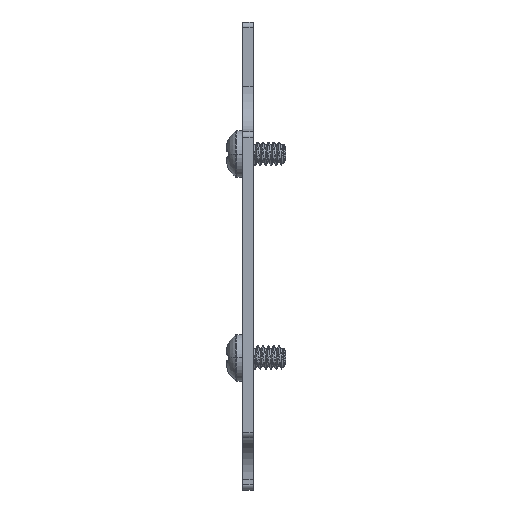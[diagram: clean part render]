
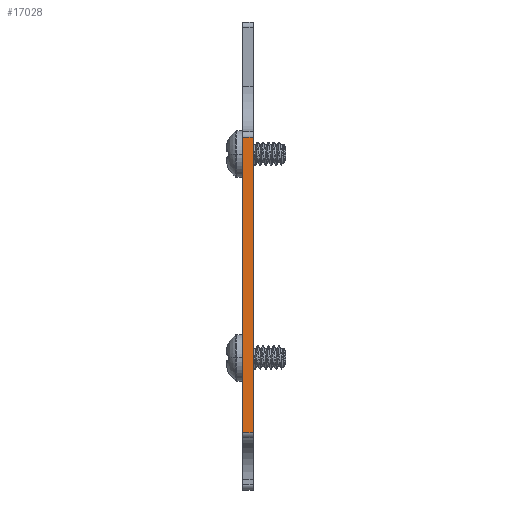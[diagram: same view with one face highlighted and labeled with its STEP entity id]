
A CAD part, left-side view. The second image highlights one B-rep face of the part: STEP entity #17028.
In plain terms, the highlighted planar face has unit normal (-1, 0, 0).
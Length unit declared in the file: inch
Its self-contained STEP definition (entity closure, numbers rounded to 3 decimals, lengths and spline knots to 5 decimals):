
#27 = VECTOR ( 'NONE', #2864, 39.37008 ) ;
#75 = PLANE ( 'NONE',  #16514 ) ;
#762 = VECTOR ( 'NONE', #7626, 39.37008 ) ;
#1204 = DIRECTION ( 'NONE',  ( 0., 0., 1. ) ) ;
#1265 = EDGE_CURVE ( 'NONE', #6853, #5339, #14337, .T. ) ;
#2251 = CARTESIAN_POINT ( 'NONE',  ( -2.24016, 0.06, -1.02609 ) ) ;
#2628 = LINE ( 'NONE', #14619, #16016 ) ;
#2864 = DIRECTION ( 'NONE',  ( 0., -1., 0. ) ) ;
#2954 = CARTESIAN_POINT ( 'NONE',  ( -2.24016, 0.06, 0.69144 ) ) ;
#3930 = CARTESIAN_POINT ( 'NONE',  ( -2.24016, 0.06, -1.02609 ) ) ;
#5339 = VERTEX_POINT ( 'NONE', #5557 ) ;
#5366 = DIRECTION ( 'NONE',  ( 0., 0., -1. ) ) ;
#5557 = CARTESIAN_POINT ( 'NONE',  ( -2.24016, 0., -1.02609 ) ) ;
#6662 = VERTEX_POINT ( 'NONE', #8629 ) ;
#6739 = LINE ( 'NONE', #13786, #27 ) ;
#6779 = FACE_OUTER_BOUND ( 'NONE', #11147, .T. ) ;
#6853 = VERTEX_POINT ( 'NONE', #3930 ) ;
#6868 = VERTEX_POINT ( 'NONE', #2954 ) ;
#7626 = DIRECTION ( 'NONE',  ( 0., -1., 0. ) ) ;
#7881 = EDGE_CURVE ( 'NONE', #6868, #6662, #6739, .T. ) ;
#7958 = ORIENTED_EDGE ( 'NONE', *, *, #1265, .T. ) ;
#8075 = ORIENTED_EDGE ( 'NONE', *, *, #9406, .T. ) ;
#8629 = CARTESIAN_POINT ( 'NONE',  ( -2.24016, 0., 0.69144 ) ) ;
#8696 = DIRECTION ( 'NONE',  ( 0., 0., 1. ) ) ;
#9406 = EDGE_CURVE ( 'NONE', #5339, #6662, #11356, .T. ) ;
#10380 = EDGE_CURVE ( 'NONE', #6853, #6868, #2628, .T. ) ;
#11147 = EDGE_LOOP ( 'NONE', ( #8075, #16117, #14486, #7958 ) ) ;
#11356 = LINE ( 'NONE', #12582, #17411 ) ;
#12582 = CARTESIAN_POINT ( 'NONE',  ( -2.24016, 0., -1.02609 ) ) ;
#13786 = CARTESIAN_POINT ( 'NONE',  ( -2.24016, 0.06, 0.69144 ) ) ;
#14337 = LINE ( 'NONE', #2251, #762 ) ;
#14486 = ORIENTED_EDGE ( 'NONE', *, *, #10380, .F. ) ;
#14619 = CARTESIAN_POINT ( 'NONE',  ( -2.24016, 0.06, -1.02609 ) ) ;
#16016 = VECTOR ( 'NONE', #1204, 39.37008 ) ;
#16117 = ORIENTED_EDGE ( 'NONE', *, *, #7881, .F. ) ;
#16398 = CARTESIAN_POINT ( 'NONE',  ( -2.24016, 0.06, -1.02609 ) ) ;
#16514 = AXIS2_PLACEMENT_3D ( 'NONE', #16398, #17463, #5366 ) ;
#17028 = ADVANCED_FACE ( 'NONE', ( #6779 ), #75, .F. ) ;
#17411 = VECTOR ( 'NONE', #8696, 39.37008 ) ;
#17463 = DIRECTION ( 'NONE',  ( 1., 0., 0. ) ) ;
